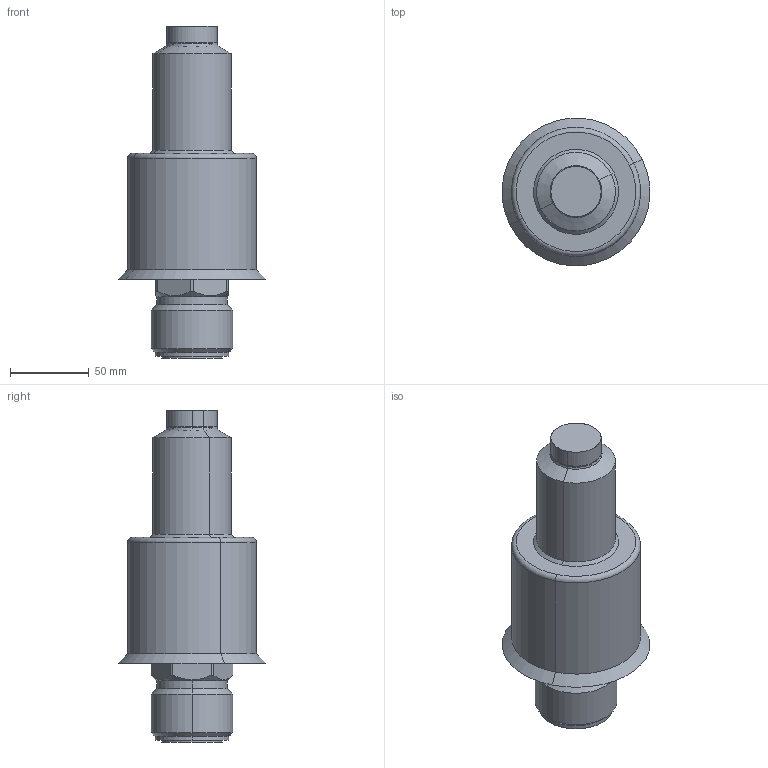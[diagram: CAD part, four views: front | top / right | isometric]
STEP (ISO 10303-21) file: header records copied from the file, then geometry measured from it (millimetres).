
FILE_DESCRIPTION (( 'STEP AP214' ), '1' );
FILE_NAME ('T20_CLOSED_161_BAND.STEP', '2009-07-06T17:42:05', ( 'Synventive Molding Solutions' ), ( 'Synventive Molding Solutions' ), 'SwSTEP 2.0', 'SolidWorks 2008', '' );
FILE_SCHEMA (( 'AUTOMOTIVE_DESIGN' ));
Length unit declared in the file: millimetre
Products named in the file (1): T20_CLOSED_161_BAND
Bounding box: 93.81 x 93.81 x 211 mm (x, y, z)
Volume: 940422.8 mm3; surface area: 86322.6 mm2
Topology: 3 solids, 3 shells, 258 faces, 644 edges, 399 vertices
Faces by surface type: cylinder 94, plane 93, torus 43, cone 24, sphere 2, bspline 2
Entity records: 11451 total; most frequent: CARTESIAN_POINT 2366, DIRECTION 1350, ORIENTED_EDGE 1284, EDGE_CURVE 642, AXIS2_PLACEMENT_3D 533, VERTEX_POINT 399, LINE 284, VECTOR 284
